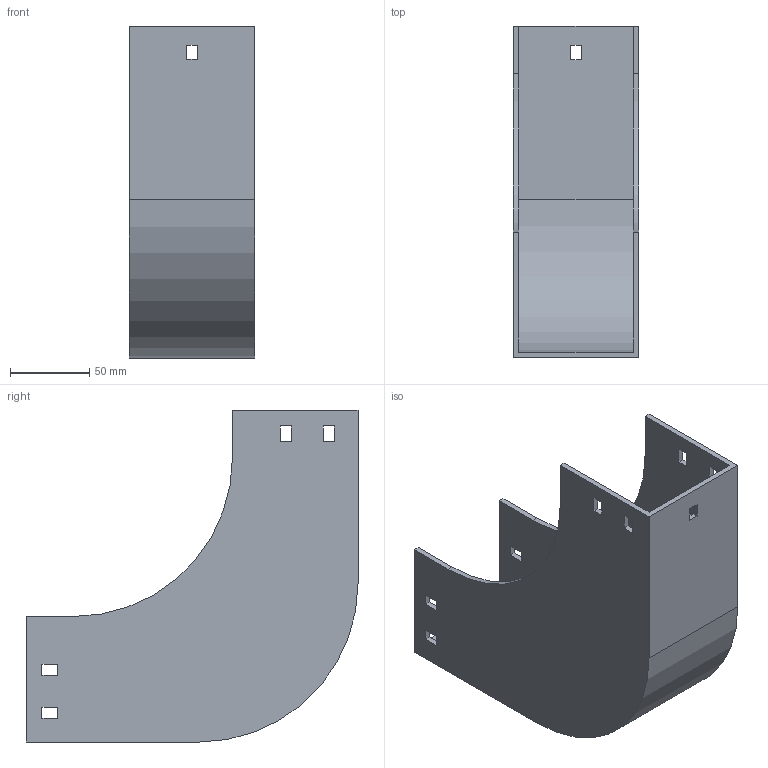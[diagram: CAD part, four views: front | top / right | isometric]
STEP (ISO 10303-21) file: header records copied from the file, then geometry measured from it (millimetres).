
FILE_DESCRIPTION (( 'STEP AP214' ), '1' );
FILE_NAME ('30F1C075.step', '2025-02-21T13:01:58', ( '' ), ( '' ), 'SwSTEP 2.0', 'SolidWorks 2023', '' );
FILE_SCHEMA (( 'AUTOMOTIVE_DESIGN' ));
Length unit declared in the file: millimetre
Products named in the file (1): 30F1C075
Bounding box: 79 x 209 x 209 mm (x, y, z)
Volume: 278924.8 mm3; surface area: 163703.4 mm2
Topology: 1 solids, 1 shells, 58 faces, 168 edges, 112 vertices
Faces by surface type: plane 54, cylinder 4
Entity records: 1943 total; most frequent: CARTESIAN_POINT 339, ORIENTED_EDGE 336, DIRECTION 294, EDGE_CURVE 168, VECTOR 160, LINE 160, VERTEX_POINT 112, EDGE_LOOP 78
